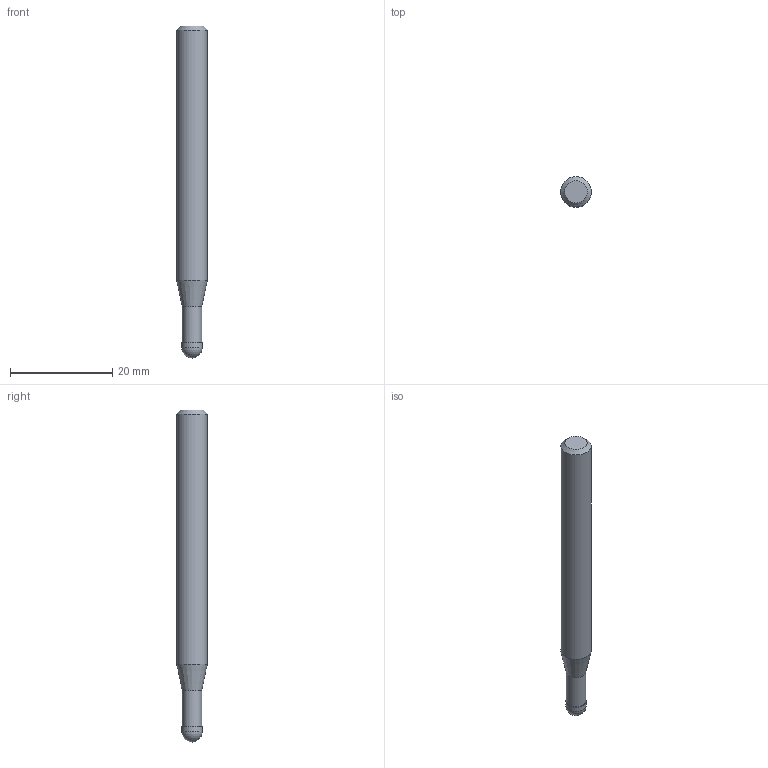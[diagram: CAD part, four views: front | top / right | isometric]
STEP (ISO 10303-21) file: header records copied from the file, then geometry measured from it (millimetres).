
FILE_DESCRIPTION((''),'2;1');
FILE_NAME('C:\Users\nsx150\AppData\Local\Temp\Mastercam 2021\3SYKECWX22\TEMP.step','2021-04-22T10:05:18',(''),(''),'STEP Write','Mastercam 2021 ... CNC Software, Inc.','');
FILE_SCHEMA(('AUTOMOTIVE_DESIGN'));
Length unit declared in the file: millimetre
Products named in the file (1): None
Bounding box: 6 x 6 x 65 mm (x, y, z)
Volume: 1611.2 mm3; surface area: 1184.4 mm2
Topology: 2 solids, 2 shells, 9 faces, 14 edges, 8 vertices
Faces by surface type: plane 3, cylinder 3, cone 2, sphere 1
Full cylindrical faces by diameter (mm): 3.8 x1, 4 x1, 6 x1
Entity records: 211 total; most frequent: DIRECTION 36, CARTESIAN_POINT 25, AXIS2_PLACEMENT_3D 18, ORIENTED_EDGE 14, EDGE_LOOP 14, STYLED_ITEM 12, ADVANCED_FACE 9, FACE_BOUND 8
